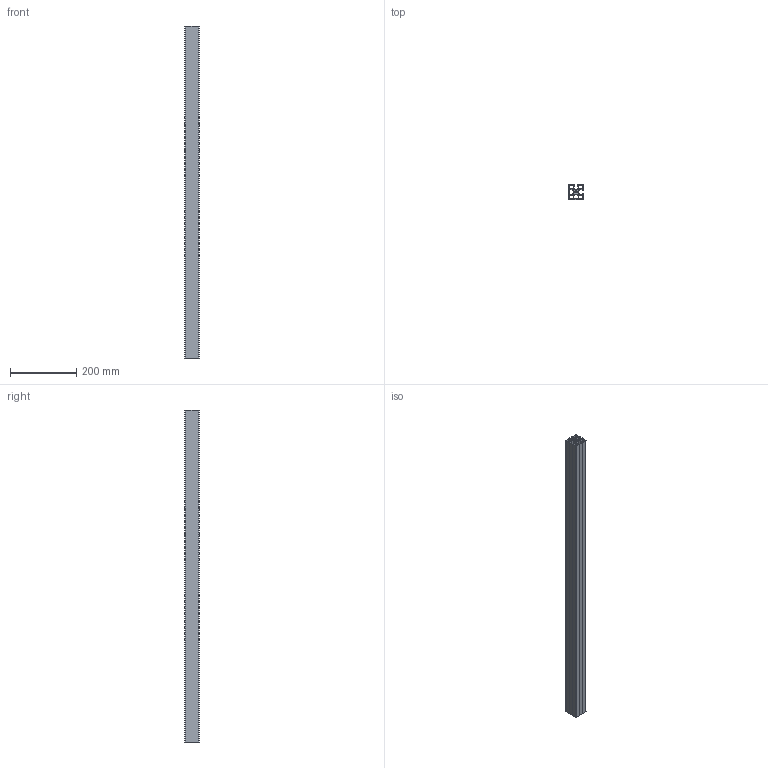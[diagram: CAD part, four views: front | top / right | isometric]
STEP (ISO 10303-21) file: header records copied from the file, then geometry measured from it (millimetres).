
FILE_DESCRIPTION (( 'STEP AP214' ), '1' );
FILE_NAME ('SA02005.step', '2024-12-03T16:28:42', ( '' ), ( '' ), 'SwSTEP 2.0', 'SolidWorks 2023', '' );
FILE_SCHEMA (( 'AUTOMOTIVE_DESIGN' ));
Length unit declared in the file: millimetre
Products named in the file (1): SA02005
Bounding box: 45 x 45 x 1000 mm (x, y, z)
Volume: 717634.8 mm3; surface area: 554509.5 mm2
Topology: 1 solids, 1 shells, 79 faces, 231 edges, 154 vertices
Faces by surface type: plane 42, cylinder 37
Full cylindrical faces by diameter (mm): 7.45 x1
Entity records: 2685 total; most frequent: DIRECTION 464, CARTESIAN_POINT 464, ORIENTED_EDGE 460, EDGE_CURVE 230, VECTOR 156, LINE 156, AXIS2_PLACEMENT_3D 154, VERTEX_POINT 154
